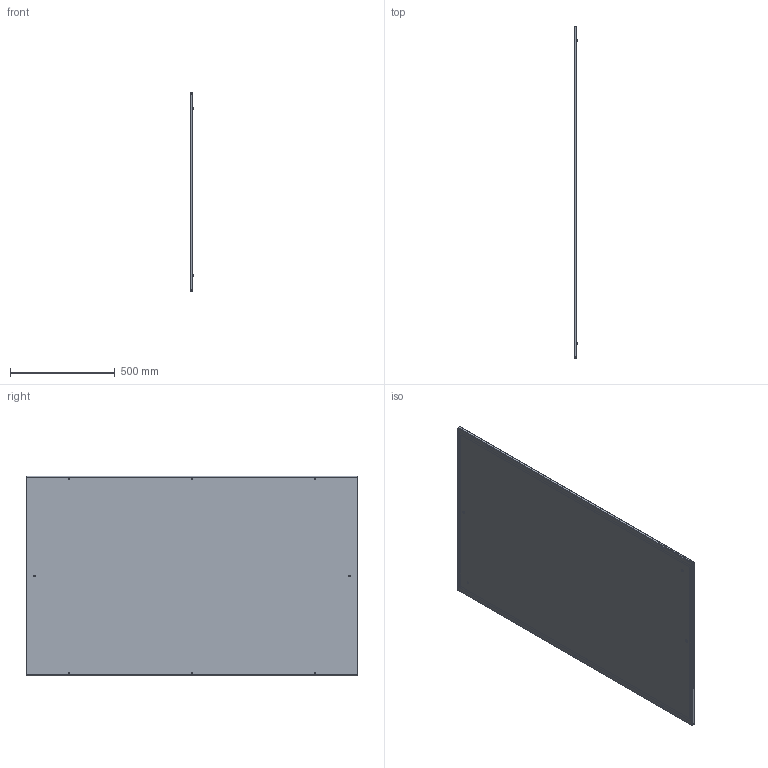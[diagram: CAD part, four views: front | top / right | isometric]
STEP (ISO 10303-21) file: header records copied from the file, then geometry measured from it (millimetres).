
FILE_DESCRIPTION(('STEP AP203'), '1');
FILE_NAME('Ïàíåëü áîêîâàÿ 1600õ1000 ìì IP55 OptiBox M (2 øò) 419642 ÊÝÀÇ', '', ('UNSPECIFIED'), ('UNSPECIFIED'), 'C3D Converter', 'C3D Toolkit', '');
FILE_SCHEMA(('CONFIG_CONTROL_DESIGN'));
Length unit declared in the file: millimetre
Bounding box: 18.9 x 1586 x 953 mm (x, y, z)
Volume: 2498811.5 mm3; surface area: 3304524.3 mm2
Topology: 4 solids, 4 shells, 141 faces, 290 edges, 172 vertices
Faces by surface type: plane 79, cylinder 54, bspline 8
Full cylindrical faces by diameter (mm): 0.75 x2, 1 x2, 6.3 x8, 8 x2, 9.3 x2, 13 x2, 13.5 x8
Entity records: 5892 total; most frequent: CARTESIAN_POINT 1994, DIRECTION 572, ORIENTED_EDGE 528, EDGE_CURVE 264, AXIS2_PLACEMENT_3D 210, EDGE_LOOP 200, VERTEX_POINT 172, LINE 152
